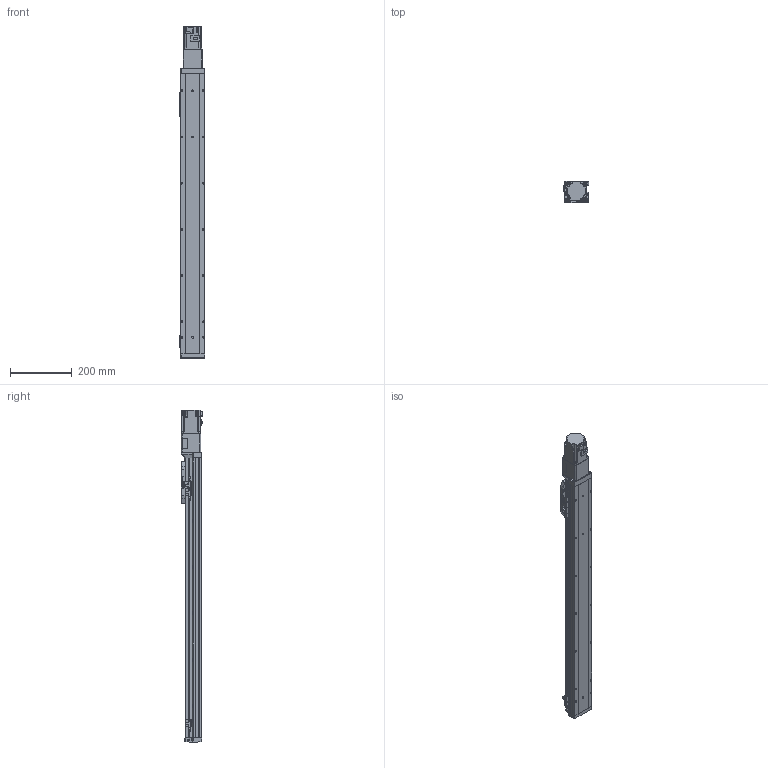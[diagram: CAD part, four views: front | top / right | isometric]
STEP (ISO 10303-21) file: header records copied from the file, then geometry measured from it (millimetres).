
FILE_DESCRIPTION (( 'STEP AP214' ), '1' );
FILE_NAME ('GSH8-750-BC-M20-1.step', '2025-01-07T06:04:20', ( '' ), ( '' ), 'SwSTEP 2.0', 'SolidWorks 2012', '' );
FILE_SCHEMA (( 'AUTOMOTIVE_DESIGN' ));
Length unit declared in the file: millimetre
Products named in the file (4): GSH8-GY-004; GSH8-750-BC-M20-1; GSH8-BC-011-750-M20; HG-KR23_200W_Motor
Assembly tree (3 placements, depth 2):
  GSH8-750-BC-M20-1
    GSH8-BC-011-750-M20
    GSH8-GY-004
    HG-KR23_200W_Motor
Bounding box: 84 x 71.3 x 1077.6 mm (x, y, z)
Volume: 2137193.1 mm3; surface area: 577418.4 mm2
Topology: 3 solids, 7 shells, 1150 faces, 3053 edges, 1968 vertices
Faces by surface type: plane 658, cylinder 400, torus 38, cone 26, bspline 24, sphere 4
Entity records: 44963 total; most frequent: CARTESIAN_POINT 10071, DIRECTION 6185, ORIENTED_EDGE 6090, EDGE_CURVE 3045, AXIS2_PLACEMENT_3D 2078, VECTOR 2029, LINE 2029, VERTEX_POINT 1964
